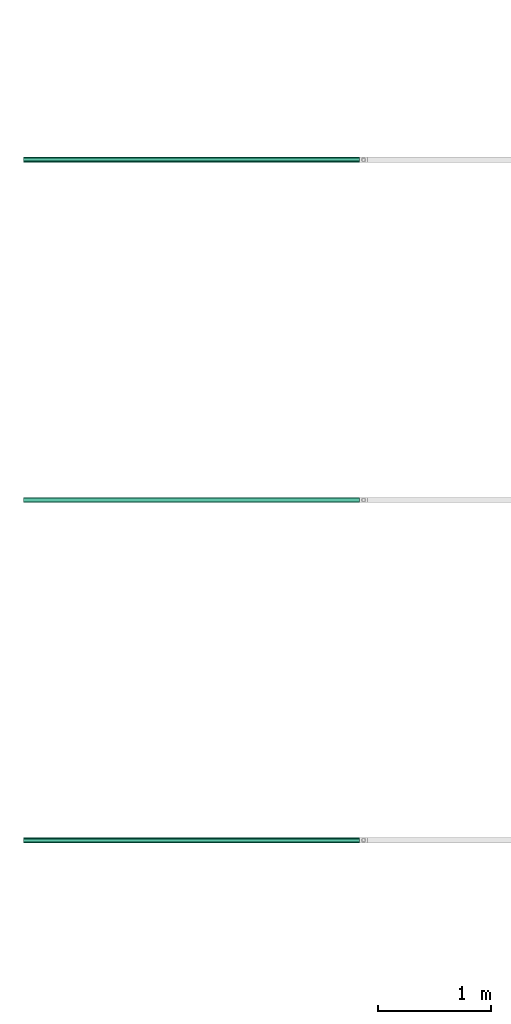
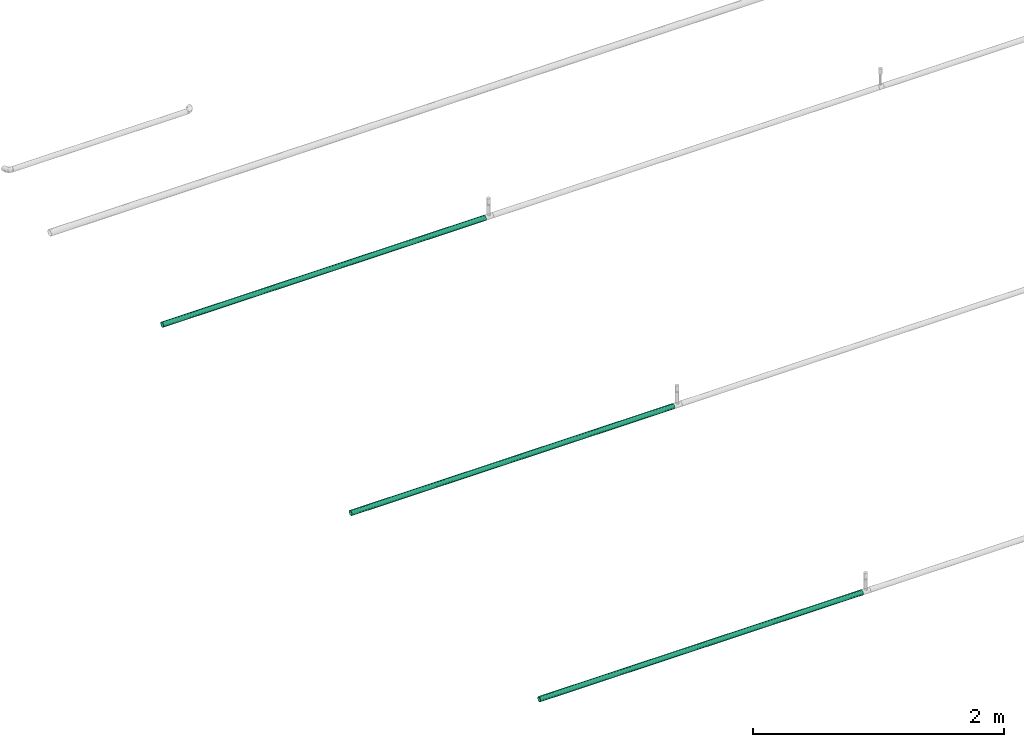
# One storey, part 13 of 14: 3 flow segments.
"""IFC2X3 building model written with IfcOpenShell, lengths in millimetres."""

from ifc_helpers import new_model, entity, si_unit, converted_unit, derived_unit, direction, frame, place, context, subcontext, project, spatial, faceted_brep, type_object, element, save


model = new_model("IFC2X3")

# Units and contexts
model_context = context("Model", 3, precision=0.01, world=frame((0.0, 4.29681676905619e-09, 0.0)), true_north=direction((4.01073788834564e-13, 1.0)))
plan_context = context("Plan", 3, precision=0.01, world=frame((0.0, 4.29681676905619e-09, 0.0)), true_north=direction((4.01073788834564e-13, 1.0)))
body_context = subcontext(model_context, "Body", "Model", "MODEL_VIEW")
ifc_project = project(units=[converted_unit("PLANEANGLEUNIT", "DEGREE", entity("IfcPositiveLengthMeasure", 0.0174532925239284), si_unit("PLANEANGLEUNIT", "RADIAN"), dimensions=[0, 0, 0, 0, 0, 0, 0]), si_unit("AREAUNIT", "SQUARE_METRE"), si_unit("LENGTHUNIT", "METRE", prefix="MILLI"), si_unit("MASSUNIT", "GRAM", prefix="KILO"), si_unit("POWERUNIT", "WATT"), si_unit("PRESSUREUNIT", "PASCAL"), si_unit("FORCEUNIT", "NEWTON", prefix="KILO"), si_unit("ELECTRICVOLTAGEUNIT", "VOLT"), si_unit("ELECTRICCURRENTUNIT", "AMPERE"), si_unit("THERMODYNAMICTEMPERATUREUNIT", "DEGREE_CELSIUS"), si_unit("TIMEUNIT", "SECOND"), si_unit("VOLUMEUNIT", "CUBIC_METRE"), derived_unit("LINEARVELOCITYUNIT", [(si_unit("LENGTHUNIT", "METRE"), 1), (si_unit("TIMEUNIT", "SECOND"), -1)]), derived_unit("VOLUMETRICFLOWRATEUNIT", [(si_unit("VOLUMEUNIT", "CUBIC_METRE"), 1), (si_unit("TIMEUNIT", "SECOND"), -1)]), derived_unit("THERMALTRANSMITTANCEUNIT", [(si_unit("POWERUNIT", "WATT"), 1), (si_unit("THERMODYNAMICTEMPERATUREUNIT", "KELVIN"), -1), (si_unit("AREAUNIT", "SQUARE_METRE"), -1)]), derived_unit("SOUNDPRESSUREUNIT", [(si_unit("PRESSUREUNIT", "PASCAL"), 1)])], contexts=[model_context, plan_context])

# Site, building, storey
site_placement = place(None, frame((0.0, -4.29681676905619e-09, 0.0), z_axis=(0.0, 0.0, 1.0), x_axis=(1.0, 0.0, 0.0)))
site = spatial("IfcSite", under=ifc_project, at=site_placement, CompositionType="ELEMENT")
building_placement = place(site_placement, frame((0.0, 4.29681676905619e-09, 0.0), z_axis=(0.0, 0.0, 1.0), x_axis=(1.0, 0.0, 0.0)))
building = spatial("IfcBuilding", under=site, at=building_placement, Name="mc-building", CompositionType="ELEMENT")
storey_placement = place(building_placement, frame((0.0, 0.0, 204000.0), z_axis=(0.0, 0.0, 1.0), x_axis=(1.0, 0.0, 0.0)))
storey = spatial("IfcBuildingStorey", under=building, at=storey_placement, Name="Nivå D", CompositionType="ELEMENT", Elevation=204000.0)

# Flow segments
pipe_segment_type = type_object("IfcPipeSegmentType", Name="Stålrør normaltykke", PredefinedType="RIGIDSEGMENT")
flow_segment_1_placement = place(storey_placement, frame((597433.8, 696802.46783, 6140.0), z_axis=(0.0, 0.0, 1.0), x_axis=(1.0, 0.0, 0.0)))
element("IfcFlowSegment", 1, at=flow_segment_1_placement, inside=storey, type_object=pipe_segment_type, Name="Stålrør normaltykke", context=body_context, shape_type="Brep", body=[
    faceted_brep([(566.199999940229, 21.7642513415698, -3.83762472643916), (566.199999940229, 22.1, 0.0), (3532.4, 22.1, 0.0), (3532.4, 21.7642513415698, -3.83762472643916), (566.199999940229, 20.7672069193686, -7.5586451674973), (3532.4, 20.7672069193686, -7.5586451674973), (566.199999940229, 19.1391614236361, -11.05), (3532.4, 19.1391614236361, -11.05), (566.199999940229, 16.9295821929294, -14.2056061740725), (3532.4, 16.9295821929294, -14.2056061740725), (566.199999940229, 14.2056061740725, -16.9295821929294), (3532.4, 14.2056061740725, -16.9295821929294), (566.199999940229, 11.05, -19.1391614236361), (3532.4, 11.05, -19.1391614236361), (566.199999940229, 7.55864516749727, -20.7672069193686), (3532.4, 7.55864516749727, -20.7672069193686), (566.199999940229, 3.83762472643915, -21.7642513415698), (3532.4, 3.83762472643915, -21.7642513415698), (566.199999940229, -4.05970413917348e-15, -22.1), (3532.4, -4.05970413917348e-15, -22.1), (566.199999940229, -3.83762472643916, -21.7642513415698), (3532.4, -3.83762472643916, -21.7642513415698), (566.199999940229, -7.55864516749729, -20.7672069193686), (3532.4, -7.55864516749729, -20.7672069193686), (566.199999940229, -11.05, -19.1391614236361), (3532.4, -11.05, -19.1391614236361), (566.199999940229, -14.2056061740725, -16.9295821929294), (3532.4, -14.2056061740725, -16.9295821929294), (566.199999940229, -16.9295821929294, -14.2056061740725), (3532.4, -16.9295821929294, -14.2056061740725), (566.199999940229, -19.1391614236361, -11.05), (3532.4, -19.1391614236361, -11.05), (566.199999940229, -20.7672069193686, -7.55864516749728), (3532.4, -20.7672069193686, -7.55864516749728), (566.199999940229, -21.7642513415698, -3.83762472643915), (3532.4, -21.7642513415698, -3.83762472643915), (566.199999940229, -22.1, 2.70646942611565e-15), (3532.4, -22.1, 2.70646942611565e-15), (566.199999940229, -21.7642513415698, 3.83762472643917), (3532.4, -21.7642513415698, 3.83762472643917), (566.199999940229, -20.7672069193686, 7.55864516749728), (3532.4, -20.7672069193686, 7.55864516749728), (566.199999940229, -19.1391614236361, 11.05), (3532.4, -19.1391614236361, 11.05), (566.199999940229, -16.9295821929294, 14.2056061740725), (3532.4, -16.9295821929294, 14.2056061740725), (566.199999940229, -14.2056061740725, 16.9295821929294), (3532.4, -14.2056061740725, 16.9295821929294), (566.199999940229, -11.05, 19.1391614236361), (3532.4, -11.05, 19.1391614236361), (566.199999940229, -7.55864516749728, 20.7672069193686), (3532.4, -7.55864516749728, 20.7672069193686), (566.199999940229, -3.83762472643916, 21.7642513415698), (3532.4, -3.83762472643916, 21.7642513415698), (566.199999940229, 1.35323471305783e-15, 22.1), (3532.4, 1.35323471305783e-15, 22.1), (566.199999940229, 3.83762472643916, 21.7642513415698), (3532.4, 3.83762472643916, 21.7642513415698), (566.199999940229, 7.55864516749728, 20.7672069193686), (3532.4, 7.55864516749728, 20.7672069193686), (566.199999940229, 11.05, 19.1391614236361), (3532.4, 11.05, 19.1391614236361), (566.199999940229, 14.2056061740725, 16.9295821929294), (3532.4, 14.2056061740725, 16.9295821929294), (566.199999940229, 16.9295821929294, 14.2056061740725), (3532.4, 16.9295821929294, 14.2056061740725), (566.199999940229, 19.1391614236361, 11.05), (3532.4, 19.1391614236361, 11.05), (566.199999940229, 20.7672069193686, 7.55864516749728), (3532.4, 20.7672069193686, 7.55864516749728), (566.199999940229, 21.7642513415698, 3.83762472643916), (3532.4, 21.7642513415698, 3.83762472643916), (566.199999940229, 24.1, 0.0), (566.199999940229, 23.7338668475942, -4.18492108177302), (3532.4, 23.7338668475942, -4.18492108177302), (3532.4, 24.1, 0.0), (566.199999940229, 23.7338668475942, 4.18492108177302), (3532.4, 23.7338668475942, 4.18492108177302), (566.199999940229, 22.6465921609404, 8.24268545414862), (3532.4, 22.6465921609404, 8.24268545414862), (566.199999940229, 20.871212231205, 12.05), (3532.4, 20.871212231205, 12.05), (566.199999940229, 18.4616710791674, 15.4911813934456), (3532.4, 18.4616710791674, 15.4911813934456), (566.199999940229, 15.4911813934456, 18.4616710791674), (3532.4, 15.4911813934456, 18.4616710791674), (566.199999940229, 12.05, 20.871212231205), (3532.4, 12.05, 20.871212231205), (566.199999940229, 8.24268545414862, 22.6465921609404), (3532.4, 8.24268545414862, 22.6465921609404), (566.199999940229, 4.18492108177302, 23.7338668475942), (3532.4, 4.18492108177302, 23.7338668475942), (566.199999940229, 1.47569939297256e-15, 24.1), (3532.4, 1.47569939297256e-15, 24.1), (566.199999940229, -4.18492108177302, 23.7338668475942), (3532.4, -4.18492108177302, 23.7338668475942), (566.199999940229, -8.24268545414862, 22.6465921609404), (3532.4, -8.24268545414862, 22.6465921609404), (566.199999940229, -12.05, 20.871212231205), (3532.4, -12.05, 20.871212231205), (566.199999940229, -15.4911813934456, 18.4616710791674), (3532.4, -15.4911813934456, 18.4616710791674), (566.199999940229, -18.4616710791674, 15.4911813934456), (3532.4, -18.4616710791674, 15.4911813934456), (566.199999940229, -20.871212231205, 12.05), (3532.4, -20.871212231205, 12.05), (566.199999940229, -22.6465921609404, 8.24268545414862), (3532.4, -22.6465921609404, 8.24268545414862), (566.199999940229, -23.7338668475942, 4.18492108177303), (3532.4, -23.7338668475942, 4.18492108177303), (566.199999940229, -24.1, 2.95139878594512e-15), (3532.4, -24.1, 2.95139878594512e-15), (566.199999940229, -23.7338668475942, -4.18492108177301), (3532.4, -23.7338668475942, -4.18492108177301), (566.199999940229, -22.6465921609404, -8.24268545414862), (3532.4, -22.6465921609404, -8.24268545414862), (566.199999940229, -20.871212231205, -12.05), (3532.4, -20.871212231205, -12.05), (566.199999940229, -18.4616710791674, -15.4911813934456), (3532.4, -18.4616710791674, -15.4911813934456), (566.199999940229, -15.4911813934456, -18.4616710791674), (3532.4, -15.4911813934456, -18.4616710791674), (566.199999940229, -12.05, -20.871212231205), (3532.4, -12.05, -20.871212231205), (566.199999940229, -8.24268545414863, -22.6465921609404), (3532.4, -8.24268545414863, -22.6465921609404), (566.199999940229, -4.18492108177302, -23.7338668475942), (3532.4, -4.18492108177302, -23.7338668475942), (566.199999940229, -4.42709817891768e-15, -24.1), (3532.4, -4.42709817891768e-15, -24.1), (566.199999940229, 4.18492108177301, -23.7338668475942), (3532.4, 4.18492108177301, -23.7338668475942), (566.199999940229, 8.2426854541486, -22.6465921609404), (3532.4, 8.2426854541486, -22.6465921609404), (566.199999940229, 12.05, -20.871212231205), (3532.4, 12.05, -20.871212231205), (566.199999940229, 15.4911813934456, -18.4616710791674), (3532.4, 15.4911813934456, -18.4616710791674), (566.199999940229, 18.4616710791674, -15.4911813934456), (3532.4, 18.4616710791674, -15.4911813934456), (566.199999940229, 20.871212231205, -12.05), (3532.4, 20.871212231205, -12.05), (566.199999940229, 22.6465921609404, -8.24268545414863), (3532.4, 22.6465921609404, -8.24268545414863)], [[[0, 1, 2, 3]], [[4, 0, 3, 5]], [[6, 4, 5, 7]], [[8, 6, 7, 9]], [[10, 8, 9, 11]], [[12, 10, 11, 13]], [[14, 12, 13, 15]], [[16, 14, 15, 17]], [[18, 16, 17, 19]], [[20, 18, 19, 21]], [[22, 20, 21, 23]], [[24, 22, 23, 25]], [[26, 24, 25, 27]], [[28, 26, 27, 29]], [[30, 28, 29, 31]], [[32, 30, 31, 33]], [[34, 32, 33, 35]], [[36, 34, 35, 37]], [[38, 36, 37, 39]], [[40, 38, 39, 41]], [[42, 40, 41, 43]], [[44, 42, 43, 45]], [[46, 44, 45, 47]], [[48, 46, 47, 49]], [[50, 48, 49, 51]], [[52, 50, 51, 53]], [[54, 52, 53, 55]], [[56, 54, 55, 57]], [[58, 56, 57, 59]], [[60, 58, 59, 61]], [[62, 60, 61, 63]], [[64, 62, 63, 65]], [[66, 64, 65, 67]], [[68, 66, 67, 69]], [[70, 68, 69, 71]], [[1, 70, 71, 2]], [[72, 73, 74, 75]], [[76, 72, 75, 77]], [[78, 76, 77, 79]], [[80, 78, 79, 81]], [[82, 80, 81, 83]], [[84, 82, 83, 85]], [[86, 84, 85, 87]], [[88, 86, 87, 89]], [[90, 88, 89, 91]], [[92, 90, 91, 93]], [[94, 92, 93, 95]], [[96, 94, 95, 97]], [[98, 96, 97, 99]], [[100, 98, 99, 101]], [[102, 100, 101, 103]], [[104, 102, 103, 105]], [[106, 104, 105, 107]], [[108, 106, 107, 109]], [[110, 108, 109, 111]], [[112, 110, 111, 113]], [[114, 112, 113, 115]], [[116, 114, 115, 117]], [[118, 116, 117, 119]], [[120, 118, 119, 121]], [[122, 120, 121, 123]], [[124, 122, 123, 125]], [[126, 124, 125, 127]], [[128, 126, 127, 129]], [[130, 128, 129, 131]], [[132, 130, 131, 133]], [[134, 132, 133, 135]], [[136, 134, 135, 137]], [[138, 136, 137, 139]], [[140, 138, 139, 141]], [[142, 140, 141, 143]], [[73, 142, 143, 74]], [[75, 74, 143, 141, 139, 137, 135, 133, 131, 129, 127, 125, 123, 121, 119, 117, 115, 113, 111, 109, 107, 105, 103, 101, 99, 97, 95, 93, 91, 89, 87, 85, 83, 81, 79, 77], [2, 71, 69, 67, 65, 63, 61, 59, 57, 55, 53, 51, 49, 47, 45, 43, 41, 39, 37, 35, 33, 31, 29, 27, 25, 23, 21, 19, 17, 15, 13, 11, 9, 7, 5, 3]], [[76, 78, 80, 82, 84, 86, 88, 90, 92, 94, 96, 98, 100, 102, 104, 106, 108, 110, 112, 114, 116, 118, 120, 122, 124, 126, 128, 130, 132, 134, 136, 138, 140, 142, 73, 72], [4, 6, 8, 10, 12, 14, 16, 18, 20, 22, 24, 26, 28, 30, 32, 34, 36, 38, 40, 42, 44, 46, 48, 50, 52, 54, 56, 58, 60, 62, 64, 66, 68, 70, 1, 0]]], orient=[[False], [False], [False], [False], [False], [False], [False], [False], [False], [False], [False], [False], [False], [False], [False], [False], [False], [False], [False], [False], [False], [False], [False], [False], [False], [False], [False], [False], [False], [False], [False], [False], [False], [False], [False], [False], [False], [False], [False], [False], [False], [False], [False], [False], [False], [False], [False], [False], [False], [False], [False], [False], [False], [False], [False], [False], [False], [False], [False], [False], [False], [False], [False], [False], [False], [False], [False], [False], [False], [False], [False], [False], [False, False], [False, False]]),
])
flow_segment_2_placement = place(storey_placement, frame((597433.8, 693802.46783, 6129.32644999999), z_axis=(0.0, 0.0, 1.0), x_axis=(1.0, 0.0, 0.0)))
element("IfcFlowSegment", 2, at=flow_segment_2_placement, inside=storey, type_object=pipe_segment_type, Name="Stålrør normaltykke", context=body_context, shape_type="Brep", body=[
    faceted_brep([(566.199999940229, 21.7642513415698, -3.83762472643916), (566.199999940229, 22.1, 0.0), (3532.4, 22.1, 0.0), (3532.4, 21.7642513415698, -3.83762472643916), (566.199999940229, 20.7672069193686, -7.5586451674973), (3532.4, 20.7672069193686, -7.5586451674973), (566.199999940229, 19.1391614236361, -11.05), (3532.4, 19.1391614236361, -11.05), (566.199999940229, 16.9295821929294, -14.2056061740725), (3532.4, 16.9295821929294, -14.2056061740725), (566.199999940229, 14.2056061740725, -16.9295821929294), (3532.4, 14.2056061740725, -16.9295821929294), (566.199999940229, 11.05, -19.1391614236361), (3532.4, 11.05, -19.1391614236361), (566.199999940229, 7.55864516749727, -20.7672069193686), (3532.4, 7.55864516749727, -20.7672069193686), (566.199999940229, 3.83762472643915, -21.7642513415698), (3532.4, 3.83762472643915, -21.7642513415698), (566.199999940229, -4.05970413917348e-15, -22.1), (3532.4, -4.05970413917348e-15, -22.1), (566.199999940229, -3.83762472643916, -21.7642513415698), (3532.4, -3.83762472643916, -21.7642513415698), (566.199999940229, -7.55864516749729, -20.7672069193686), (3532.4, -7.55864516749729, -20.7672069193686), (566.199999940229, -11.05, -19.1391614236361), (3532.4, -11.05, -19.1391614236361), (566.199999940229, -14.2056061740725, -16.9295821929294), (3532.4, -14.2056061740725, -16.9295821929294), (566.199999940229, -16.9295821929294, -14.2056061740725), (3532.4, -16.9295821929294, -14.2056061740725), (566.199999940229, -19.1391614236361, -11.05), (3532.4, -19.1391614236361, -11.05), (566.199999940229, -20.7672069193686, -7.55864516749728), (3532.4, -20.7672069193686, -7.55864516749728), (566.199999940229, -21.7642513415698, -3.83762472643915), (3532.4, -21.7642513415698, -3.83762472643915), (566.199999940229, -22.1, 2.70646942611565e-15), (3532.4, -22.1, 2.70646942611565e-15), (566.199999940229, -21.7642513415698, 3.83762472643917), (3532.4, -21.7642513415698, 3.83762472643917), (566.199999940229, -20.7672069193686, 7.55864516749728), (3532.4, -20.7672069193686, 7.55864516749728), (566.199999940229, -19.1391614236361, 11.05), (3532.4, -19.1391614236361, 11.05), (566.199999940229, -16.9295821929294, 14.2056061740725), (3532.4, -16.9295821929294, 14.2056061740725), (566.199999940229, -14.2056061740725, 16.9295821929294), (3532.4, -14.2056061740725, 16.9295821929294), (566.199999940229, -11.05, 19.1391614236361), (3532.4, -11.05, 19.1391614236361), (566.199999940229, -7.55864516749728, 20.7672069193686), (3532.4, -7.55864516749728, 20.7672069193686), (566.199999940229, -3.83762472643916, 21.7642513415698), (3532.4, -3.83762472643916, 21.7642513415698), (566.199999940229, 1.35323471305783e-15, 22.1), (3532.4, 1.35323471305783e-15, 22.1), (566.199999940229, 3.83762472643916, 21.7642513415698), (3532.4, 3.83762472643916, 21.7642513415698), (566.199999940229, 7.55864516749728, 20.7672069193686), (3532.4, 7.55864516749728, 20.7672069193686), (566.199999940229, 11.05, 19.1391614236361), (3532.4, 11.05, 19.1391614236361), (566.199999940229, 14.2056061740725, 16.9295821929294), (3532.4, 14.2056061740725, 16.9295821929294), (566.199999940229, 16.9295821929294, 14.2056061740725), (3532.4, 16.9295821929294, 14.2056061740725), (566.199999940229, 19.1391614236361, 11.05), (3532.4, 19.1391614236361, 11.05), (566.199999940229, 20.7672069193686, 7.55864516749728), (3532.4, 20.7672069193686, 7.55864516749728), (566.199999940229, 21.7642513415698, 3.83762472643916), (3532.4, 21.7642513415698, 3.83762472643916), (566.199999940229, 24.1, 0.0), (566.199999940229, 23.7338668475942, -4.18492108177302), (3532.4, 23.7338668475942, -4.18492108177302), (3532.4, 24.1, 0.0), (566.199999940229, 23.7338668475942, 4.18492108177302), (3532.4, 23.7338668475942, 4.18492108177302), (566.199999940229, 22.6465921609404, 8.24268545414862), (3532.4, 22.6465921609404, 8.24268545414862), (566.199999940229, 20.871212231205, 12.05), (3532.4, 20.871212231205, 12.05), (566.199999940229, 18.4616710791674, 15.4911813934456), (3532.4, 18.4616710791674, 15.4911813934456), (566.199999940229, 15.4911813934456, 18.4616710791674), (3532.4, 15.4911813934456, 18.4616710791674), (566.199999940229, 12.05, 20.871212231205), (3532.4, 12.05, 20.871212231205), (566.199999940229, 8.24268545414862, 22.6465921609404), (3532.4, 8.24268545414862, 22.6465921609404), (566.199999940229, 4.18492108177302, 23.7338668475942), (3532.4, 4.18492108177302, 23.7338668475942), (566.199999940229, 1.47569939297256e-15, 24.1), (3532.4, 1.47569939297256e-15, 24.1), (566.199999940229, -4.18492108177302, 23.7338668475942), (3532.4, -4.18492108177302, 23.7338668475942), (566.199999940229, -8.24268545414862, 22.6465921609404), (3532.4, -8.24268545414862, 22.6465921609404), (566.199999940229, -12.05, 20.871212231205), (3532.4, -12.05, 20.871212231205), (566.199999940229, -15.4911813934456, 18.4616710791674), (3532.4, -15.4911813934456, 18.4616710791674), (566.199999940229, -18.4616710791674, 15.4911813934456), (3532.4, -18.4616710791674, 15.4911813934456), (566.199999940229, -20.871212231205, 12.05), (3532.4, -20.871212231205, 12.05), (566.199999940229, -22.6465921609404, 8.24268545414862), (3532.4, -22.6465921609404, 8.24268545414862), (566.199999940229, -23.7338668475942, 4.18492108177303), (3532.4, -23.7338668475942, 4.18492108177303), (566.199999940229, -24.1, 2.95139878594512e-15), (3532.4, -24.1, 2.95139878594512e-15), (566.199999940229, -23.7338668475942, -4.18492108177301), (3532.4, -23.7338668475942, -4.18492108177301), (566.199999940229, -22.6465921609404, -8.24268545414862), (3532.4, -22.6465921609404, -8.24268545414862), (566.199999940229, -20.871212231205, -12.05), (3532.4, -20.871212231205, -12.05), (566.199999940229, -18.4616710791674, -15.4911813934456), (3532.4, -18.4616710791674, -15.4911813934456), (566.199999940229, -15.4911813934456, -18.4616710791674), (3532.4, -15.4911813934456, -18.4616710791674), (566.199999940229, -12.05, -20.871212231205), (3532.4, -12.05, -20.871212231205), (566.199999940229, -8.24268545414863, -22.6465921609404), (3532.4, -8.24268545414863, -22.6465921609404), (566.199999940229, -4.18492108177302, -23.7338668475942), (3532.4, -4.18492108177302, -23.7338668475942), (566.199999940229, -4.42709817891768e-15, -24.1), (3532.4, -4.42709817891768e-15, -24.1), (566.199999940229, 4.18492108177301, -23.7338668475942), (3532.4, 4.18492108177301, -23.7338668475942), (566.199999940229, 8.2426854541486, -22.6465921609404), (3532.4, 8.2426854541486, -22.6465921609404), (566.199999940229, 12.05, -20.871212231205), (3532.4, 12.05, -20.871212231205), (566.199999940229, 15.4911813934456, -18.4616710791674), (3532.4, 15.4911813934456, -18.4616710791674), (566.199999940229, 18.4616710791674, -15.4911813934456), (3532.4, 18.4616710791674, -15.4911813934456), (566.199999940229, 20.871212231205, -12.05), (3532.4, 20.871212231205, -12.05), (566.199999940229, 22.6465921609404, -8.24268545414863), (3532.4, 22.6465921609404, -8.24268545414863)], [[[0, 1, 2, 3]], [[4, 0, 3, 5]], [[6, 4, 5, 7]], [[8, 6, 7, 9]], [[10, 8, 9, 11]], [[12, 10, 11, 13]], [[14, 12, 13, 15]], [[16, 14, 15, 17]], [[18, 16, 17, 19]], [[20, 18, 19, 21]], [[22, 20, 21, 23]], [[24, 22, 23, 25]], [[26, 24, 25, 27]], [[28, 26, 27, 29]], [[30, 28, 29, 31]], [[32, 30, 31, 33]], [[34, 32, 33, 35]], [[36, 34, 35, 37]], [[38, 36, 37, 39]], [[40, 38, 39, 41]], [[42, 40, 41, 43]], [[44, 42, 43, 45]], [[46, 44, 45, 47]], [[48, 46, 47, 49]], [[50, 48, 49, 51]], [[52, 50, 51, 53]], [[54, 52, 53, 55]], [[56, 54, 55, 57]], [[58, 56, 57, 59]], [[60, 58, 59, 61]], [[62, 60, 61, 63]], [[64, 62, 63, 65]], [[66, 64, 65, 67]], [[68, 66, 67, 69]], [[70, 68, 69, 71]], [[1, 70, 71, 2]], [[72, 73, 74, 75]], [[76, 72, 75, 77]], [[78, 76, 77, 79]], [[80, 78, 79, 81]], [[82, 80, 81, 83]], [[84, 82, 83, 85]], [[86, 84, 85, 87]], [[88, 86, 87, 89]], [[90, 88, 89, 91]], [[92, 90, 91, 93]], [[94, 92, 93, 95]], [[96, 94, 95, 97]], [[98, 96, 97, 99]], [[100, 98, 99, 101]], [[102, 100, 101, 103]], [[104, 102, 103, 105]], [[106, 104, 105, 107]], [[108, 106, 107, 109]], [[110, 108, 109, 111]], [[112, 110, 111, 113]], [[114, 112, 113, 115]], [[116, 114, 115, 117]], [[118, 116, 117, 119]], [[120, 118, 119, 121]], [[122, 120, 121, 123]], [[124, 122, 123, 125]], [[126, 124, 125, 127]], [[128, 126, 127, 129]], [[130, 128, 129, 131]], [[132, 130, 131, 133]], [[134, 132, 133, 135]], [[136, 134, 135, 137]], [[138, 136, 137, 139]], [[140, 138, 139, 141]], [[142, 140, 141, 143]], [[73, 142, 143, 74]], [[75, 74, 143, 141, 139, 137, 135, 133, 131, 129, 127, 125, 123, 121, 119, 117, 115, 113, 111, 109, 107, 105, 103, 101, 99, 97, 95, 93, 91, 89, 87, 85, 83, 81, 79, 77], [2, 71, 69, 67, 65, 63, 61, 59, 57, 55, 53, 51, 49, 47, 45, 43, 41, 39, 37, 35, 33, 31, 29, 27, 25, 23, 21, 19, 17, 15, 13, 11, 9, 7, 5, 3]], [[76, 78, 80, 82, 84, 86, 88, 90, 92, 94, 96, 98, 100, 102, 104, 106, 108, 110, 112, 114, 116, 118, 120, 122, 124, 126, 128, 130, 132, 134, 136, 138, 140, 142, 73, 72], [4, 6, 8, 10, 12, 14, 16, 18, 20, 22, 24, 26, 28, 30, 32, 34, 36, 38, 40, 42, 44, 46, 48, 50, 52, 54, 56, 58, 60, 62, 64, 66, 68, 70, 1, 0]]], orient=[[False], [False], [False], [False], [False], [False], [False], [False], [False], [False], [False], [False], [False], [False], [False], [False], [False], [False], [False], [False], [False], [False], [False], [False], [False], [False], [False], [False], [False], [False], [False], [False], [False], [False], [False], [False], [False], [False], [False], [False], [False], [False], [False], [False], [False], [False], [False], [False], [False], [False], [False], [False], [False], [False], [False], [False], [False], [False], [False], [False], [False], [False], [False], [False], [False], [False], [False], [False], [False], [False], [False], [False], [False, False], [False, False]]),
])
flow_segment_3_placement = place(storey_placement, frame((597433.8, 690802.46783, 6140.0), z_axis=(0.0, 0.0, 1.0), x_axis=(1.0, 0.0, 0.0)))
element("IfcFlowSegment", 3, at=flow_segment_3_placement, inside=storey, type_object=pipe_segment_type, Name="Stålrør normaltykke", context=body_context, shape_type="Brep", body=[
    faceted_brep([(566.199999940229, 21.7642513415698, -3.83762472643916), (566.199999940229, 22.1, 0.0), (3532.4, 22.1, 0.0), (3532.4, 21.7642513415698, -3.83762472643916), (566.199999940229, 20.7672069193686, -7.5586451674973), (3532.4, 20.7672069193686, -7.5586451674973), (566.199999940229, 19.1391614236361, -11.05), (3532.4, 19.1391614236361, -11.05), (566.199999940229, 16.9295821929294, -14.2056061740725), (3532.4, 16.9295821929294, -14.2056061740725), (566.199999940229, 14.2056061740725, -16.9295821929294), (3532.4, 14.2056061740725, -16.9295821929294), (566.199999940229, 11.05, -19.1391614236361), (3532.4, 11.05, -19.1391614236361), (566.199999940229, 7.55864516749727, -20.7672069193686), (3532.4, 7.55864516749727, -20.7672069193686), (566.199999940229, 3.83762472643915, -21.7642513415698), (3532.4, 3.83762472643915, -21.7642513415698), (566.199999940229, -4.05970413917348e-15, -22.1), (3532.4, -4.05970413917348e-15, -22.1), (566.199999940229, -3.83762472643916, -21.7642513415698), (3532.4, -3.83762472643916, -21.7642513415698), (566.199999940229, -7.55864516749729, -20.7672069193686), (3532.4, -7.55864516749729, -20.7672069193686), (566.199999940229, -11.05, -19.1391614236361), (3532.4, -11.05, -19.1391614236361), (566.199999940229, -14.2056061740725, -16.9295821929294), (3532.4, -14.2056061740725, -16.9295821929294), (566.199999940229, -16.9295821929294, -14.2056061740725), (3532.4, -16.9295821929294, -14.2056061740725), (566.199999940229, -19.1391614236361, -11.05), (3532.4, -19.1391614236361, -11.05), (566.199999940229, -20.7672069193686, -7.55864516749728), (3532.4, -20.7672069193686, -7.55864516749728), (566.199999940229, -21.7642513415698, -3.83762472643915), (3532.4, -21.7642513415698, -3.83762472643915), (566.199999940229, -22.1, 2.70646942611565e-15), (3532.4, -22.1, 2.70646942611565e-15), (566.199999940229, -21.7642513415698, 3.83762472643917), (3532.4, -21.7642513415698, 3.83762472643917), (566.199999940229, -20.7672069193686, 7.55864516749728), (3532.4, -20.7672069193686, 7.55864516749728), (566.199999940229, -19.1391614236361, 11.05), (3532.4, -19.1391614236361, 11.05), (566.199999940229, -16.9295821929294, 14.2056061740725), (3532.4, -16.9295821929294, 14.2056061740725), (566.199999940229, -14.2056061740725, 16.9295821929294), (3532.4, -14.2056061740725, 16.9295821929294), (566.199999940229, -11.05, 19.1391614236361), (3532.4, -11.05, 19.1391614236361), (566.199999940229, -7.55864516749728, 20.7672069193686), (3532.4, -7.55864516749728, 20.7672069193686), (566.199999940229, -3.83762472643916, 21.7642513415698), (3532.4, -3.83762472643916, 21.7642513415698), (566.199999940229, 1.35323471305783e-15, 22.1), (3532.4, 1.35323471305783e-15, 22.1), (566.199999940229, 3.83762472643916, 21.7642513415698), (3532.4, 3.83762472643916, 21.7642513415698), (566.199999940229, 7.55864516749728, 20.7672069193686), (3532.4, 7.55864516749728, 20.7672069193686), (566.199999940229, 11.05, 19.1391614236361), (3532.4, 11.05, 19.1391614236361), (566.199999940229, 14.2056061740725, 16.9295821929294), (3532.4, 14.2056061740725, 16.9295821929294), (566.199999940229, 16.9295821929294, 14.2056061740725), (3532.4, 16.9295821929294, 14.2056061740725), (566.199999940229, 19.1391614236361, 11.05), (3532.4, 19.1391614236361, 11.05), (566.199999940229, 20.7672069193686, 7.55864516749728), (3532.4, 20.7672069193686, 7.55864516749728), (566.199999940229, 21.7642513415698, 3.83762472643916), (3532.4, 21.7642513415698, 3.83762472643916), (566.199999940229, 24.1, 0.0), (566.199999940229, 23.7338668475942, -4.18492108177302), (3532.4, 23.7338668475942, -4.18492108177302), (3532.4, 24.1, 0.0), (566.199999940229, 23.7338668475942, 4.18492108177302), (3532.4, 23.7338668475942, 4.18492108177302), (566.199999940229, 22.6465921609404, 8.24268545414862), (3532.4, 22.6465921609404, 8.24268545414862), (566.199999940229, 20.871212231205, 12.05), (3532.4, 20.871212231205, 12.05), (566.199999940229, 18.4616710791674, 15.4911813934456), (3532.4, 18.4616710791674, 15.4911813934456), (566.199999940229, 15.4911813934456, 18.4616710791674), (3532.4, 15.4911813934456, 18.4616710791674), (566.199999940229, 12.05, 20.871212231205), (3532.4, 12.05, 20.871212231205), (566.199999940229, 8.24268545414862, 22.6465921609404), (3532.4, 8.24268545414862, 22.6465921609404), (566.199999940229, 4.18492108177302, 23.7338668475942), (3532.4, 4.18492108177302, 23.7338668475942), (566.199999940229, 1.47569939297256e-15, 24.1), (3532.4, 1.47569939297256e-15, 24.1), (566.199999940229, -4.18492108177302, 23.7338668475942), (3532.4, -4.18492108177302, 23.7338668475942), (566.199999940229, -8.24268545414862, 22.6465921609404), (3532.4, -8.24268545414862, 22.6465921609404), (566.199999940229, -12.05, 20.871212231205), (3532.4, -12.05, 20.871212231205), (566.199999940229, -15.4911813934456, 18.4616710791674), (3532.4, -15.4911813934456, 18.4616710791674), (566.199999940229, -18.4616710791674, 15.4911813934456), (3532.4, -18.4616710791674, 15.4911813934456), (566.199999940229, -20.871212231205, 12.05), (3532.4, -20.871212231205, 12.05), (566.199999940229, -22.6465921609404, 8.24268545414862), (3532.4, -22.6465921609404, 8.24268545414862), (566.199999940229, -23.7338668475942, 4.18492108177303), (3532.4, -23.7338668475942, 4.18492108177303), (566.199999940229, -24.1, 2.95139878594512e-15), (3532.4, -24.1, 2.95139878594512e-15), (566.199999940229, -23.7338668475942, -4.18492108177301), (3532.4, -23.7338668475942, -4.18492108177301), (566.199999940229, -22.6465921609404, -8.24268545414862), (3532.4, -22.6465921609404, -8.24268545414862), (566.199999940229, -20.871212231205, -12.05), (3532.4, -20.871212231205, -12.05), (566.199999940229, -18.4616710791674, -15.4911813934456), (3532.4, -18.4616710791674, -15.4911813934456), (566.199999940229, -15.4911813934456, -18.4616710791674), (3532.4, -15.4911813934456, -18.4616710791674), (566.199999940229, -12.05, -20.871212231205), (3532.4, -12.05, -20.871212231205), (566.199999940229, -8.24268545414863, -22.6465921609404), (3532.4, -8.24268545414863, -22.6465921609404), (566.199999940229, -4.18492108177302, -23.7338668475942), (3532.4, -4.18492108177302, -23.7338668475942), (566.199999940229, -4.42709817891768e-15, -24.1), (3532.4, -4.42709817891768e-15, -24.1), (566.199999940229, 4.18492108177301, -23.7338668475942), (3532.4, 4.18492108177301, -23.7338668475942), (566.199999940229, 8.2426854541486, -22.6465921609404), (3532.4, 8.2426854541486, -22.6465921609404), (566.199999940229, 12.05, -20.871212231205), (3532.4, 12.05, -20.871212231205), (566.199999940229, 15.4911813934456, -18.4616710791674), (3532.4, 15.4911813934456, -18.4616710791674), (566.199999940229, 18.4616710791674, -15.4911813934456), (3532.4, 18.4616710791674, -15.4911813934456), (566.199999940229, 20.871212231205, -12.05), (3532.4, 20.871212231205, -12.05), (566.199999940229, 22.6465921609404, -8.24268545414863), (3532.4, 22.6465921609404, -8.24268545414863)], [[[0, 1, 2, 3]], [[4, 0, 3, 5]], [[6, 4, 5, 7]], [[8, 6, 7, 9]], [[10, 8, 9, 11]], [[12, 10, 11, 13]], [[14, 12, 13, 15]], [[16, 14, 15, 17]], [[18, 16, 17, 19]], [[20, 18, 19, 21]], [[22, 20, 21, 23]], [[24, 22, 23, 25]], [[26, 24, 25, 27]], [[28, 26, 27, 29]], [[30, 28, 29, 31]], [[32, 30, 31, 33]], [[34, 32, 33, 35]], [[36, 34, 35, 37]], [[38, 36, 37, 39]], [[40, 38, 39, 41]], [[42, 40, 41, 43]], [[44, 42, 43, 45]], [[46, 44, 45, 47]], [[48, 46, 47, 49]], [[50, 48, 49, 51]], [[52, 50, 51, 53]], [[54, 52, 53, 55]], [[56, 54, 55, 57]], [[58, 56, 57, 59]], [[60, 58, 59, 61]], [[62, 60, 61, 63]], [[64, 62, 63, 65]], [[66, 64, 65, 67]], [[68, 66, 67, 69]], [[70, 68, 69, 71]], [[1, 70, 71, 2]], [[72, 73, 74, 75]], [[76, 72, 75, 77]], [[78, 76, 77, 79]], [[80, 78, 79, 81]], [[82, 80, 81, 83]], [[84, 82, 83, 85]], [[86, 84, 85, 87]], [[88, 86, 87, 89]], [[90, 88, 89, 91]], [[92, 90, 91, 93]], [[94, 92, 93, 95]], [[96, 94, 95, 97]], [[98, 96, 97, 99]], [[100, 98, 99, 101]], [[102, 100, 101, 103]], [[104, 102, 103, 105]], [[106, 104, 105, 107]], [[108, 106, 107, 109]], [[110, 108, 109, 111]], [[112, 110, 111, 113]], [[114, 112, 113, 115]], [[116, 114, 115, 117]], [[118, 116, 117, 119]], [[120, 118, 119, 121]], [[122, 120, 121, 123]], [[124, 122, 123, 125]], [[126, 124, 125, 127]], [[128, 126, 127, 129]], [[130, 128, 129, 131]], [[132, 130, 131, 133]], [[134, 132, 133, 135]], [[136, 134, 135, 137]], [[138, 136, 137, 139]], [[140, 138, 139, 141]], [[142, 140, 141, 143]], [[73, 142, 143, 74]], [[75, 74, 143, 141, 139, 137, 135, 133, 131, 129, 127, 125, 123, 121, 119, 117, 115, 113, 111, 109, 107, 105, 103, 101, 99, 97, 95, 93, 91, 89, 87, 85, 83, 81, 79, 77], [2, 71, 69, 67, 65, 63, 61, 59, 57, 55, 53, 51, 49, 47, 45, 43, 41, 39, 37, 35, 33, 31, 29, 27, 25, 23, 21, 19, 17, 15, 13, 11, 9, 7, 5, 3]], [[76, 78, 80, 82, 84, 86, 88, 90, 92, 94, 96, 98, 100, 102, 104, 106, 108, 110, 112, 114, 116, 118, 120, 122, 124, 126, 128, 130, 132, 134, 136, 138, 140, 142, 73, 72], [4, 6, 8, 10, 12, 14, 16, 18, 20, 22, 24, 26, 28, 30, 32, 34, 36, 38, 40, 42, 44, 46, 48, 50, 52, 54, 56, 58, 60, 62, 64, 66, 68, 70, 1, 0]]], orient=[[False], [False], [False], [False], [False], [False], [False], [False], [False], [False], [False], [False], [False], [False], [False], [False], [False], [False], [False], [False], [False], [False], [False], [False], [False], [False], [False], [False], [False], [False], [False], [False], [False], [False], [False], [False], [False], [False], [False], [False], [False], [False], [False], [False], [False], [False], [False], [False], [False], [False], [False], [False], [False], [False], [False], [False], [False], [False], [False], [False], [False], [False], [False], [False], [False], [False], [False], [False], [False], [False], [False], [False], [False, False], [False, False]]),
])

save(model, "model.ifc")
